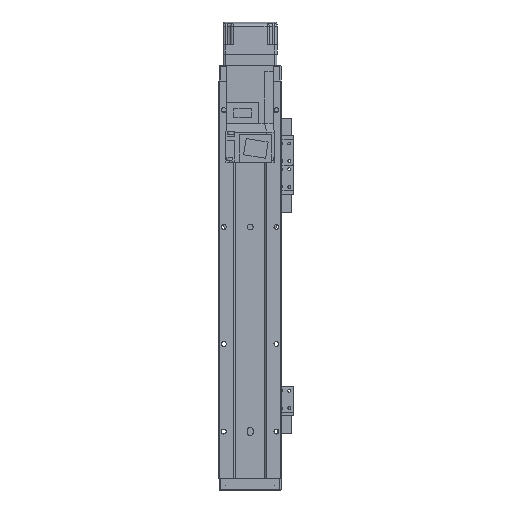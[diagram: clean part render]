
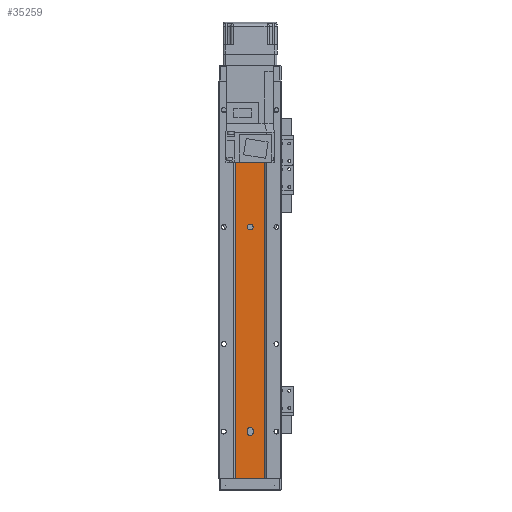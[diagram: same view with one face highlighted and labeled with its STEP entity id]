
A CAD part, front view. The second image highlights one B-rep face of the part: STEP entity #35259.
In plain terms, the highlighted planar face has unit normal (0, -1, 0).
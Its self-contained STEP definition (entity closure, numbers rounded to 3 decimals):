
#166 = EDGE_CURVE ( 'NONE', #6606, #22359, #34358, .T. ) ;
#788 = DIRECTION ( 'NONE',  ( 1., 0., 0. ) ) ;
#3105 = EDGE_CURVE ( 'NONE', #22359, #21008, #28875, .T. ) ;
#3333 = EDGE_LOOP ( 'NONE', ( #36481, #37427 ) ) ;
#4183 = FACE_OUTER_BOUND ( 'NONE', #14710, .T. ) ;
#4715 = ORIENTED_EDGE ( 'NONE', *, *, #27773, .F. ) ;
#4775 = VERTEX_POINT ( 'NONE', #13725 ) ;
#4812 = VERTEX_POINT ( 'NONE', #11169 ) ;
#5961 = EDGE_CURVE ( 'NONE', #21008, #17476, #13894, .T. ) ;
#6172 = CARTESIAN_POINT ( 'NONE',  ( -12.293, 1.5, -340. ) ) ;
#6409 = EDGE_CURVE ( 'NONE', #32138, #30483, #25598, .T. ) ;
#6606 = VERTEX_POINT ( 'NONE', #10809 ) ;
#6704 = AXIS2_PLACEMENT_3D ( 'NONE', #12421, #35467, #20846 ) ;
#6810 = DIRECTION ( 'NONE',  ( 0., -1., 0. ) ) ;
#6861 = CIRCLE ( 'NONE', #6704, 2.5 ) ;
#6951 = FACE_BOUND ( 'NONE', #19311, .T. ) ;
#7117 = ORIENTED_EDGE ( 'NONE', *, *, #166, .F. ) ;
#7181 = DIRECTION ( 'NONE',  ( 0., 0., 1. ) ) ;
#8311 = EDGE_CURVE ( 'NONE', #26595, #4812, #36279, .T. ) ;
#9768 = VECTOR ( 'NONE', #31762, 1000. ) ;
#9804 = CARTESIAN_POINT ( 'NONE',  ( 12.293, 1.5, 0. ) ) ;
#10048 = CARTESIAN_POINT ( 'NONE',  ( 2.5, 1.5, -25. ) ) ;
#10411 = DIRECTION ( 'NONE',  ( 1., 0., 0. ) ) ;
#10713 = ORIENTED_EDGE ( 'NONE', *, *, #3105, .F. ) ;
#10809 = CARTESIAN_POINT ( 'NONE',  ( -2.5, 1.5, -299. ) ) ;
#11169 = CARTESIAN_POINT ( 'NONE',  ( -12.293, 1.5, 0. ) ) ;
#11262 = CARTESIAN_POINT ( 'NONE',  ( 12.293, 1.5, -340. ) ) ;
#11417 = CARTESIAN_POINT ( 'NONE',  ( -2.5, 1.5, -125. ) ) ;
#11462 = DIRECTION ( 'NONE',  ( 0., 0., 1. ) ) ;
#11723 = CIRCLE ( 'NONE', #31978, 2.5 ) ;
#12097 = CARTESIAN_POINT ( 'NONE',  ( 0., 1.5, -25. ) ) ;
#12421 = CARTESIAN_POINT ( 'NONE',  ( 0., 1.5, -299. ) ) ;
#12943 = DIRECTION ( 'NONE',  ( 1., 0., 0. ) ) ;
#12955 = VECTOR ( 'NONE', #33644, 1000. ) ;
#13028 = CARTESIAN_POINT ( 'NONE',  ( 12.293, 1.5, -340. ) ) ;
#13249 = AXIS2_PLACEMENT_3D ( 'NONE', #33967, #16501, #36892 ) ;
#13331 = FACE_BOUND ( 'NONE', #3333, .T. ) ;
#13725 = CARTESIAN_POINT ( 'NONE',  ( -2.5, 1.5, -25. ) ) ;
#13894 = LINE ( 'NONE', #36447, #37566 ) ;
#14062 = DIRECTION ( 'NONE',  ( 1., 0., 0. ) ) ;
#14363 = EDGE_CURVE ( 'NONE', #30483, #32138, #11723, .T. ) ;
#14371 = AXIS2_PLACEMENT_3D ( 'NONE', #12097, #18186, #788 ) ;
#14610 = EDGE_CURVE ( 'NONE', #32692, #20641, #35801, .T. ) ;
#14710 = EDGE_LOOP ( 'NONE', ( #18875, #35389, #19769, #31664 ) ) ;
#15486 = CARTESIAN_POINT ( 'NONE',  ( 12.293, 1.5, -340. ) ) ;
#15884 = CARTESIAN_POINT ( 'NONE',  ( 2.5, 1.5, -299. ) ) ;
#16293 = CIRCLE ( 'NONE', #31823, 2.5 ) ;
#16501 = DIRECTION ( 'NONE',  ( 0., -1., 0. ) ) ;
#17476 = VERTEX_POINT ( 'NONE', #15884 ) ;
#18186 = DIRECTION ( 'NONE',  ( 0., -1., 0. ) ) ;
#18288 = CIRCLE ( 'NONE', #14371, 2.5 ) ;
#18482 = DIRECTION ( 'NONE',  ( 1., 0., 0. ) ) ;
#18875 = ORIENTED_EDGE ( 'NONE', *, *, #20374, .F. ) ;
#19311 = EDGE_LOOP ( 'NONE', ( #10713, #7117, #4715, #28509 ) ) ;
#19691 = ORIENTED_EDGE ( 'NONE', *, *, #6409, .F. ) ;
#19769 = ORIENTED_EDGE ( 'NONE', *, *, #25126, .T. ) ;
#20053 = CARTESIAN_POINT ( 'NONE',  ( 0., 1.5, -125. ) ) ;
#20374 = EDGE_CURVE ( 'NONE', #4812, #20641, #21148, .T. ) ;
#20562 = EDGE_LOOP ( 'NONE', ( #26759, #19691 ) ) ;
#20641 = VERTEX_POINT ( 'NONE', #9804 ) ;
#20793 = VERTEX_POINT ( 'NONE', #10048 ) ;
#20846 = DIRECTION ( 'NONE',  ( 1., 0., 0. ) ) ;
#21008 = VERTEX_POINT ( 'NONE', #35372 ) ;
#21088 = FACE_BOUND ( 'NONE', #20562, .T. ) ;
#21148 = LINE ( 'NONE', #21951, #12955 ) ;
#21292 = DIRECTION ( 'NONE',  ( 0., -1., 0. ) ) ;
#21675 = VECTOR ( 'NONE', #7181, 1000. ) ;
#21951 = CARTESIAN_POINT ( 'NONE',  ( 12.293, 1.5, 0. ) ) ;
#21960 = DIRECTION ( 'NONE',  ( 0., 0., 1. ) ) ;
#22359 = VERTEX_POINT ( 'NONE', #32795 ) ;
#23090 = CARTESIAN_POINT ( 'NONE',  ( -12.293, 1.5, -340. ) ) ;
#23382 = EDGE_CURVE ( 'NONE', #4775, #20793, #18288, .T. ) ;
#24792 = LINE ( 'NONE', #35874, #32128 ) ;
#25126 = EDGE_CURVE ( 'NONE', #26595, #32692, #24792, .T. ) ;
#25567 = AXIS2_PLACEMENT_3D ( 'NONE', #30221, #21292, #36149 ) ;
#25598 = CIRCLE ( 'NONE', #25567, 2.5 ) ;
#26595 = VERTEX_POINT ( 'NONE', #6172 ) ;
#26759 = ORIENTED_EDGE ( 'NONE', *, *, #14363, .F. ) ;
#27773 = EDGE_CURVE ( 'NONE', #17476, #6606, #6861, .T. ) ;
#28307 = EDGE_CURVE ( 'NONE', #20793, #4775, #16293, .T. ) ;
#28509 = ORIENTED_EDGE ( 'NONE', *, *, #5961, .F. ) ;
#28875 = CIRCLE ( 'NONE', #13249, 2.5 ) ;
#30221 = CARTESIAN_POINT ( 'NONE',  ( 0., 1.5, -125. ) ) ;
#30483 = VERTEX_POINT ( 'NONE', #33147 ) ;
#30822 = DIRECTION ( 'NONE',  ( 0., -1., 0. ) ) ;
#31664 = ORIENTED_EDGE ( 'NONE', *, *, #14610, .T. ) ;
#31762 = DIRECTION ( 'NONE',  ( 0., 0., -1. ) ) ;
#31779 = DIRECTION ( 'NONE',  ( 0., -1., 0. ) ) ;
#31823 = AXIS2_PLACEMENT_3D ( 'NONE', #32503, #6810, #18482 ) ;
#31978 = AXIS2_PLACEMENT_3D ( 'NONE', #20053, #31779, #14062 ) ;
#32128 = VECTOR ( 'NONE', #12943, 1000. ) ;
#32138 = VERTEX_POINT ( 'NONE', #11417 ) ;
#32503 = CARTESIAN_POINT ( 'NONE',  ( 0., 1.5, -25. ) ) ;
#32692 = VERTEX_POINT ( 'NONE', #11262 ) ;
#32795 = CARTESIAN_POINT ( 'NONE',  ( -2.5, 1.5, -301. ) ) ;
#32935 = PLANE ( 'NONE',  #37262 ) ;
#33147 = CARTESIAN_POINT ( 'NONE',  ( 2.5, 1.5, -125. ) ) ;
#33644 = DIRECTION ( 'NONE',  ( 1., 0., 0. ) ) ;
#33967 = CARTESIAN_POINT ( 'NONE',  ( 0., 1.5, -301. ) ) ;
#34288 = CARTESIAN_POINT ( 'NONE',  ( -2.5, 1.5, -340. ) ) ;
#34358 = LINE ( 'NONE', #34288, #9768 ) ;
#34459 = VECTOR ( 'NONE', #11462, 1000. ) ;
#35259 = ADVANCED_FACE ( 'NONE', ( #6951, #21088, #13331, #4183 ), #32935, .T. ) ;
#35372 = CARTESIAN_POINT ( 'NONE',  ( 2.5, 1.5, -301. ) ) ;
#35389 = ORIENTED_EDGE ( 'NONE', *, *, #8311, .F. ) ;
#35467 = DIRECTION ( 'NONE',  ( 0., -1., 0. ) ) ;
#35801 = LINE ( 'NONE', #13028, #21675 ) ;
#35874 = CARTESIAN_POINT ( 'NONE',  ( 12.293, 1.5, -340. ) ) ;
#36149 = DIRECTION ( 'NONE',  ( 1., 0., 0. ) ) ;
#36279 = LINE ( 'NONE', #23090, #34459 ) ;
#36447 = CARTESIAN_POINT ( 'NONE',  ( 2.5, 1.5, -340. ) ) ;
#36481 = ORIENTED_EDGE ( 'NONE', *, *, #28307, .F. ) ;
#36892 = DIRECTION ( 'NONE',  ( 1., 0., 0. ) ) ;
#37262 = AXIS2_PLACEMENT_3D ( 'NONE', #15486, #30822, #10411 ) ;
#37427 = ORIENTED_EDGE ( 'NONE', *, *, #23382, .F. ) ;
#37566 = VECTOR ( 'NONE', #21960, 1000. ) ;
